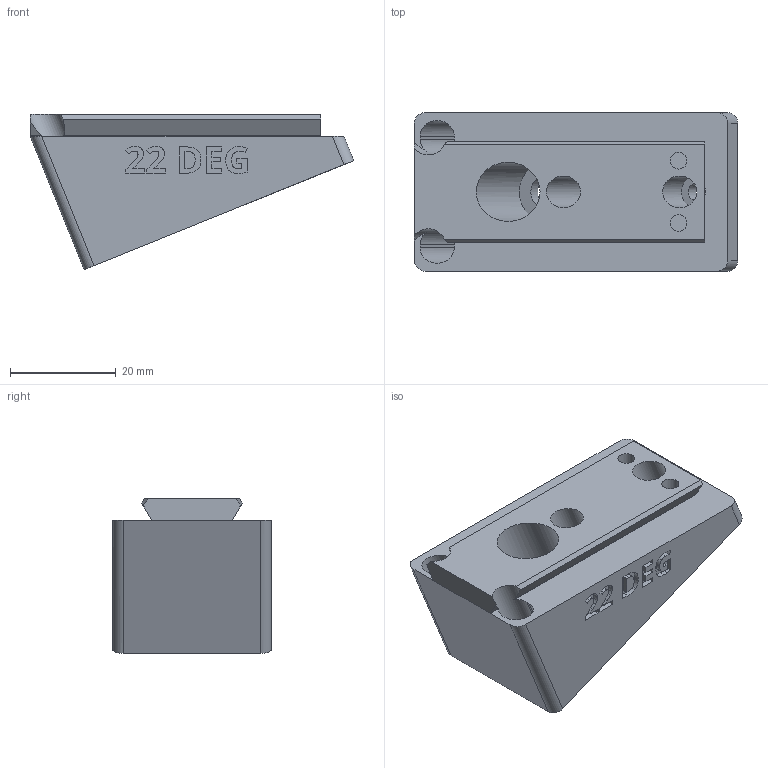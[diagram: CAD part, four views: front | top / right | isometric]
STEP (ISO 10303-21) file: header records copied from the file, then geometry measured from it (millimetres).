
FILE_DESCRIPTION(/* description */ ('STEP AP242 Edition 2','CAx-IF Rec.Pracs.---Representation and Presentation of Product Manufacturing Information (PMI)---4.0---2014-10-13','CAx-IF Rec.Pracs.---3D Tessellated Geometry---0.4---2014-09-14','2;1','CAx-IF Rec.Pracs.---User Defined Attributes---1.5---2016-08-15'),/* implementation_level */ '2;1');
FILE_NAME(/* name */ 'Camera Wedges - CAMERA MOUNTING WEDGE, POS, 22 DEG',/* time_stamp */ '2026-07-08T20:38:37Z',/* author */ (''),/* organization */ (''),/* preprocessor_version */ 'ST-DEVELOPER v20',/* originating_system */ 'ONSHAPE BY PTC INC, 1.217',/* authorisation */ ' ');
FILE_SCHEMA (('AP242_MANAGED_MODEL_BASED_3D_ENGINEERING_MIM_LF { 1 0 10303 442 3 1 4 }'));
Length unit declared in the file: metre
Products named in the file (1): CAMERA MOUNTING WEDGE, POS, 22 DEG
Bounding box: 61.19 x 30 x 29.34 mm (x, y, z)
Volume: 25124.1 mm3; surface area: 9451 mm2
Topology: 1 solids, 1 shells, 269 faces, 751 edges, 501 vertices
Faces by surface type: plane 141, cylinder 68, bspline 60
Full cylindrical faces by diameter (mm): 3.2 x4, 6 x2, 6.4 x1, 11.2 x1
Entity records: 8822 total; most frequent: CARTESIAN_POINT 2168, ORIENTED_EDGE 1480, DIRECTION 1190, EDGE_CURVE 740, VERTEX_POINT 498, LINE 470, VECTOR 470, AXIS2_PLACEMENT_3D 360
